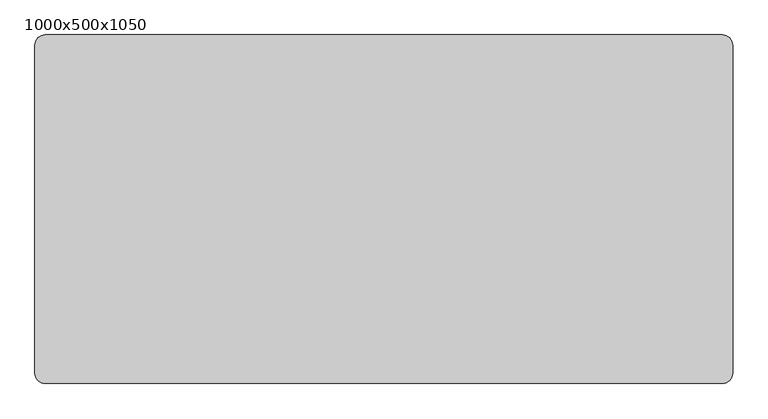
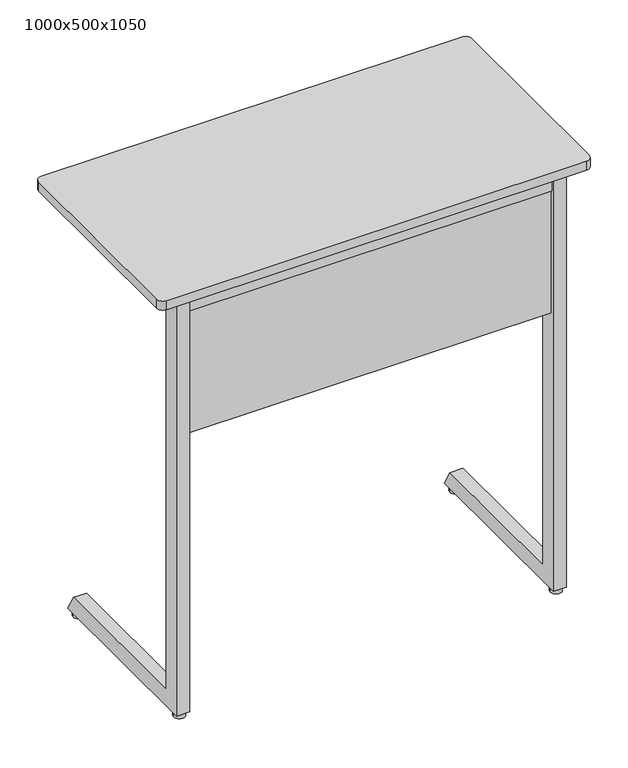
"""IFC4 building model written with IfcOpenShell, lengths in millimetres: furniture geometry, Trivia Light : 1000x500x1050."""

from ifc_helpers import new_model, si_unit, point, frame, frame_2d, origin, origin_with_axes, place, context, project, spatial, polyline, circle_curve, trimmed, segment, composite_curve, outline, extrude, source, transform, mapped, element, save


def furniture_1000x500x1050_e50aae5e(model_context):
    return source(origin(), model_context, "Body", "SweptSolid", [
        extrude(outline(polyline([(434.5100173, 1028.0), (419.9996059, 996.4981092), (54.0, 996.4977978), (54.0, 1028.0), (434.5100173, 1028.0)])), frame((-364.7535601, 0.0, 0.0), z_axis=(1.0, 0.0, 0.0), x_axis=(0.0, 1.0, 0.0)), (0.0, 0.0, 1.0), 30.0),
        extrude(outline(polyline([(1023.7997437, -367.7502136), (1000.730957, -367.7502136), (1000.730957, -399.8065042), (1005.0394353, -411.6439509), (1002.2203574, -412.6700113), (997.730957, -400.3354852), (997.730957, -364.7502136), (1023.7997437, -364.7502136), (1023.7997437, -367.7502136)])), frame((0.0, 215.0, 0.0), z_axis=(0.0, 1.0, 0.0), x_axis=(0.0, 0.0, 1.0)), (0.0, 0.0, 1.0), 30.0),
        extrude(outline(polyline([(1023.7997437, 367.7535601), (1023.7997437, 364.7535601), (997.730957, 364.7535601), (997.730957, 400.3388316), (1002.2203574, 412.6733577), (1005.0394353, 411.6472973), (1000.730957, 399.8098507), (1000.730957, 367.7535601), (1023.7997437, 367.7535601)])), frame((0.0, 215.0, 0.0), z_axis=(0.0, 1.0, 0.0), x_axis=(0.0, 0.0, 1.0)), (0.0, 0.0, 1.0), 30.0),
        extrude(outline(composite_curve([segment(trimmed(circle_curve(frame_2d((-435.0, 35.0)), 13.0), [point((-448.0, 35.0))], [point((-422.0, 35.0))], False, "CARTESIAN"), True, "CONTINUOUS"), segment(trimmed(circle_curve(frame_2d((-435.0, 35.0)), 13.0), [point((-422.0, 35.0))], [point((-448.0, 35.0))], False, "CARTESIAN"), True, "CONTINUOUS")], self_intersect=False)), origin_with_axes(), (0.0, 0.0, 1.0), 13.0905762),
        extrude(outline(composite_curve([segment(trimmed(circle_curve(frame_2d((435.0, 35.0)), 13.0), [point((422.0, 35.0))], [point((448.0, 35.0))], False, "CARTESIAN"), True, "CONTINUOUS"), segment(trimmed(circle_curve(frame_2d((435.0, 35.0)), 13.0), [point((448.0, 35.0))], [point((422.0, 35.0))], False, "CARTESIAN"), True, "CONTINUOUS")], self_intersect=False)), origin_with_axes(), (0.0, 0.0, 1.0), 13.0905762),
        extrude(outline(composite_curve([segment(trimmed(circle_curve(frame_2d((435.0, 437.5)), 13.0), [point((422.0, 437.5))], [point((448.0, 437.5))], False, "CARTESIAN"), True, "CONTINUOUS"), segment(trimmed(circle_curve(frame_2d((435.0, 437.5)), 13.0), [point((448.0, 437.5))], [point((422.0, 437.5))], False, "CARTESIAN"), True, "CONTINUOUS")], self_intersect=False)), origin_with_axes(), (0.0, 0.0, 1.0), 13.0905762),
        extrude(outline(composite_curve([segment(trimmed(circle_curve(frame_2d((-435.0, 437.5)), 13.0), [point((-448.0, 437.5))], [point((-422.0, 437.5))], False, "CARTESIAN"), True, "CONTINUOUS"), segment(trimmed(circle_curve(frame_2d((-435.0, 437.5)), 13.0), [point((-422.0, 437.5))], [point((-448.0, 437.5))], False, "CARTESIAN"), True, "CONTINUOUS")], self_intersect=False)), origin_with_axes(), (0.0, 0.0, 1.0), 13.0905762),
        extrude(outline(polyline([(434.5100173, 1028.0), (419.9996059, 996.4981092), (54.0, 996.4977978), (54.0, 1028.0), (434.5100173, 1028.0)])), frame((334.7535601, 0.0, 0.0), z_axis=(1.0, 0.0, 0.0), x_axis=(0.0, 1.0, 0.0)), (0.0, 0.0, 1.0), 30.0),
        extrude(outline(composite_curve([segment(trimmed(circle_curve(frame_2d((485.0, 485.0)), 15.0), [point((485.0, 500.0))], [point((500.0, 485.0))], False, "CARTESIAN"), True, "CONTINUOUS"), segment(polyline([(500.0, 485.0), (500.0, 15.0)]), True, "CONTINUOUS"), segment(trimmed(circle_curve(frame_2d((485.0, 15.0)), 15.0), [point((500.0, 15.0))], [point((485.0, 0.0))], False, "CARTESIAN"), True, "CONTINUOUS"), segment(polyline([(485.0, 0.0), (-485.0, 0.0)]), True, "CONTINUOUS"), segment(trimmed(circle_curve(frame_2d((-485.0, 15.0)), 15.0), [point((-485.0, 0.0))], [point((-500.0, 15.0))], False, "CARTESIAN"), True, "CONTINUOUS"), segment(polyline([(-500.0, 15.0), (-500.0, 485.0)]), True, "CONTINUOUS"), segment(trimmed(circle_curve(frame_2d((-485.0, 485.0)), 15.0), [point((-500.0, 485.0))], [point((-485.0, 500.0))], False, "CARTESIAN"), True, "CONTINUOUS"), segment(polyline([(-485.0, 500.0), (485.0, 500.0)]), True, "CONTINUOUS")], self_intersect=False)), frame((0.0, 0.0, 1028.0), z_axis=(0.0, 0.0, 1.0), x_axis=(1.0, 0.0, 0.0)), (0.0, 0.0, 1.0), 22.0),
        extrude(outline(polyline([(419.7534307, 54.0), (419.7534307, 24.0), (-419.7534307, 24.0), (-419.7534307, 54.0), (419.7534307, 54.0)])), frame((0.0, 0.0, 986.0), z_axis=(0.0, 0.0, 1.0), x_axis=(1.0, 0.0, 0.0)), (0.0, 0.0, 1.0), 42.0),
        extrude(outline(polyline([(62.0, 51.5905762), (432.1448423, 51.5905762), (454.8944033, 11.5905762), (20.0, 11.5905762), (20.0, 1028.0), (62.0, 1028.0), (62.0, 51.5905762)])), frame((-449.7535601, 0.0, 0.0), z_axis=(1.0, 0.0, 0.0), x_axis=(0.0, 1.0, 0.0)), (0.0, 0.0, 1.0), 30.0001294),
        extrude(outline(polyline([(62.0, 51.5905762), (432.1448423, 51.5905762), (454.8944033, 11.5905762), (20.0, 11.5905762), (20.0, 1028.0), (62.0, 1028.0), (62.0, 51.5905762)])), frame((419.7534307, 0.0, 0.0), z_axis=(1.0, 0.0, 0.0), x_axis=(0.0, 1.0, 0.0)), (0.0, 0.0, 1.0), 30.0001294),
        extrude(outline(polyline([(419.7534307, 45.9187166), (419.7534307, 27.9321552), (-419.7534307, 27.9321552), (-419.7534307, 45.9187166), (419.7534307, 45.9187166)])), frame((0.0, 0.0, 686.5950628), z_axis=(0.0, 0.0, 1.0), x_axis=(1.0, 0.0, 0.0)), (0.0, 0.0, 1.0), 299.4049372),
    ])


if __name__ == "__main__":
    model = new_model("IFC4")
    model_context = context("Model", 3, world=origin())
    ifc_project = project(units=[si_unit("LENGTHUNIT", "METRE", prefix="MILLI")], contexts=[model_context])
    site = spatial("IfcSite", under=ifc_project)
    building = spatial("IfcBuilding", under=site)
    placement = place(None, origin())
    furniture_1000x500x1050_shape = furniture_1000x500x1050_e50aae5e(model_context)
    element("IfcFurniture", 1, ObjectType="Trivia Light : 1000x500x1050", at=placement, inside=building, context=model_context, shape_type="MappedRepresentation", body=[
        mapped(furniture_1000x500x1050_shape, transform((0.0, 0.0, 0.0), x_axis=(1.0, 0.0, 0.0), y_axis=(0.0, 1.0, 0.0), z_axis=(0.0, 0.0, 1.0))),
    ])
    save(model, "model.ifc")
